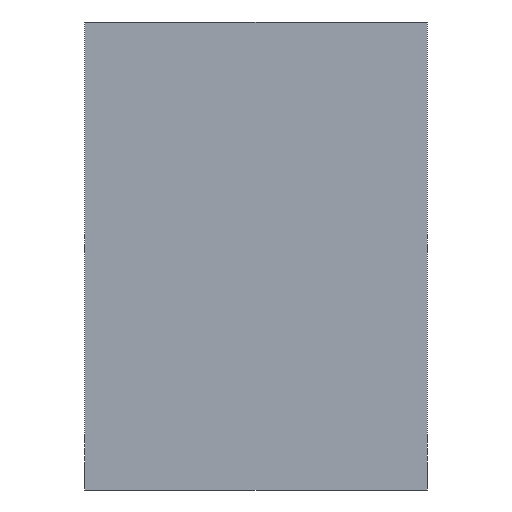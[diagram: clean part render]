
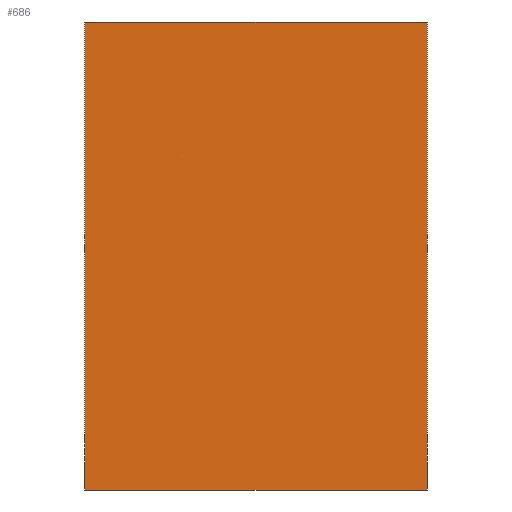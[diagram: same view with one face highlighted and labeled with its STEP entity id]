
A CAD part, left-side view. The second image highlights one B-rep face of the part: STEP entity #686.
In plain terms, the highlighted planar face has unit normal (-1, 0, 0).
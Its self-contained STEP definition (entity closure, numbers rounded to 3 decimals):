
#129=ORIENTED_EDGE('',*,*,#294,.T.);
#130=ORIENTED_EDGE('',*,*,#277,.F.);
#131=ORIENTED_EDGE('',*,*,#300,.T.);
#132=ORIENTED_EDGE('',*,*,#269,.T.);
#269=EDGE_CURVE('',#360,#359,#426,.T.);
#277=EDGE_CURVE('',#367,#368,#434,.T.);
#294=EDGE_CURVE('',#359,#368,#446,.T.);
#300=EDGE_CURVE('',#367,#360,#452,.T.);
#359=VERTEX_POINT('',#1036);
#360=VERTEX_POINT('',#1038);
#367=VERTEX_POINT('',#1053);
#368=VERTEX_POINT('',#1055);
#426=LINE('',#1037,#506);
#434=LINE('',#1054,#514);
#446=LINE('',#1083,#526);
#452=LINE('',#1092,#532);
#506=VECTOR('',#829,1000.);
#514=VECTOR('',#839,1000.);
#526=VECTOR('',#865,1000.);
#532=VECTOR('',#875,1000.);
#562=EDGE_LOOP('',(#129,#130,#131,#132));
#612=FACE_BOUND('',#562,.T.);
#658=PLANE('',#742);
#686=ADVANCED_FACE('',(#612),#658,.F.);
#742=AXIS2_PLACEMENT_3D('',#1091,#873,#874);
#829=DIRECTION('',(0.,0.,-1.));
#839=DIRECTION('',(0.,0.,-1.));
#865=DIRECTION('',(0.,-1.,0.));
#873=DIRECTION('',(1.,0.,0.));
#874=DIRECTION('',(0.,0.,-1.));
#875=DIRECTION('',(0.,1.,0.));
#1036=CARTESIAN_POINT('',(-19.5,24.5,0.));
#1037=CARTESIAN_POINT('',(-19.5,24.5,65.));
#1038=CARTESIAN_POINT('',(-19.5,24.5,67.));
#1053=CARTESIAN_POINT('',(-19.5,-24.5,67.));
#1054=CARTESIAN_POINT('',(-19.5,-24.5,65.));
#1055=CARTESIAN_POINT('',(-19.5,-24.5,0.));
#1083=CARTESIAN_POINT('',(-19.5,24.5,0.));
#1091=CARTESIAN_POINT('',(-19.5,24.5,65.));
#1092=CARTESIAN_POINT('',(-19.5,-24.5,67.));
